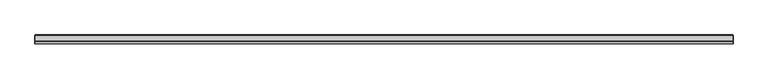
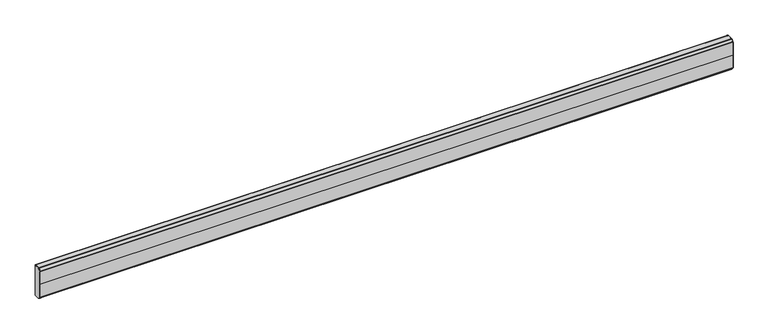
"""IFC4 building model written with IfcOpenShell, lengths in millimetres: railing geometry, Wall Guard-InPro-31SS."""

from ifc_helpers import new_model, si_unit, point, frame, frame_2d, origin, place, context, project, spatial, polyline, circle_curve, trimmed, segment, composite_curve, outline, extrude, source, transform, mapped, element, save
from ifc_brep_helpers import plane_surface, cylinder_surface, revolved_surface, advanced_brep


def railing_770f9589(model_context):
    return source(origin(), model_context, "Body", "SolidModel", [
        extrude(outline(composite_curve([segment(polyline([(6773.169536, 775.6076175), (6765.459771, 783.3173825)]), True, "CONTINUOUS"), segment(trimmed(circle_curve(frame_2d((6767.6509535, 785.508565)), 3.0988), [point((6765.459771, 783.3173825))], [point((6764.5521535, 785.508565))], False, "CARTESIAN"), True, "CONTINUOUS"), segment(polyline([(6764.5521535, 785.508565), (6764.5521535, 845.0617046), (6764.5521535, 903.591435)]), True, "CONTINUOUS"), segment(trimmed(circle_curve(frame_2d((6767.6509535, 903.591435)), 3.0988), [point((6764.5521535, 903.591435))], [point((6765.459771, 905.7826175))], False, "CARTESIAN"), True, "CONTINUOUS"), segment(polyline([(6765.459771, 905.7826175), (6773.169536, 913.4923825)]), True, "CONTINUOUS"), segment(trimmed(circle_curve(frame_2d((6775.3607185, 911.3012)), 3.0988), [point((6773.169536, 913.4923825))], [point((6775.3607185, 914.4))], False, "CARTESIAN"), True, "CONTINUOUS"), segment(polyline([(6775.3607185, 914.4), (6799.5533535, 914.4)]), True, "CONTINUOUS"), segment(trimmed(circle_curve(frame_2d((6799.5533535, 911.3012)), 3.0988), [point((6799.5533535, 914.4))], [point((6802.6521535, 911.3012))], False, "CARTESIAN"), True, "CONTINUOUS"), segment(polyline([(6802.6521535, 911.3012), (6802.6521535, 895.35), (6801.0773535, 895.35), (6801.0773535, 911.3012)]), True, "CONTINUOUS"), segment(trimmed(circle_curve(frame_2d((6799.5533535, 911.3012)), 1.524), [point((6801.0773535, 911.3012))], [point((6799.5533535, 912.8252))], True, "CARTESIAN"), True, "CONTINUOUS"), segment(polyline([(6799.5533535, 912.8252), (6775.3607185, 912.8252)]), True, "CONTINUOUS"), segment(trimmed(circle_curve(frame_2d((6775.3607185, 911.3012)), 1.524), [point((6775.3607185, 912.8252))], [point((6774.2830877, 912.3788307))], True, "CARTESIAN"), True, "CONTINUOUS"), segment(polyline([(6774.2830877, 912.3788307), (6766.5733228, 904.6690657)]), True, "CONTINUOUS"), segment(trimmed(circle_curve(frame_2d((6767.6509535, 903.591435)), 1.524), [point((6766.5733228, 904.6690657))], [point((6766.1269535, 903.591435))], True, "CARTESIAN"), True, "CONTINUOUS"), segment(polyline([(6766.1269535, 903.591435), (6766.1269535, 846.354772), (6766.1269535, 785.508565)]), True, "CONTINUOUS"), segment(trimmed(circle_curve(frame_2d((6767.6509535, 785.508565)), 1.524), [point((6766.1269535, 785.508565))], [point((6766.5733228, 784.4309343))], True, "CARTESIAN"), True, "CONTINUOUS"), segment(polyline([(6766.5733228, 784.4309343), (6774.729457, 776.2748), (6797.7753535, 776.2748)]), True, "CONTINUOUS"), segment(trimmed(circle_curve(frame_2d((6797.7753535, 777.7988)), 1.524), [point((6797.7753535, 776.2748))], [point((6799.2993535, 777.7988))], True, "CARTESIAN"), True, "CONTINUOUS"), segment(polyline([(6799.2993535, 777.7988), (6799.2993535, 787.4), (6800.8741535, 787.4), (6800.8741535, 777.7988)]), True, "CONTINUOUS"), segment(trimmed(circle_curve(frame_2d((6797.7753535, 777.7988)), 3.0988), [point((6800.8741535, 777.7988))], [point((6797.7753535, 774.7))], False, "CARTESIAN"), True, "CONTINUOUS"), segment(polyline([(6797.7753535, 774.7), (6775.3607185, 774.7)]), True, "CONTINUOUS"), segment(trimmed(circle_curve(frame_2d((6775.3607185, 777.7988)), 3.0988), [point((6775.3607185, 774.7))], [point((6773.169536, 775.6076175))], False, "CARTESIAN"), True, "CONTINUOUS")], self_intersect=False)), frame((-6431.9119023, 0.0, 0.0), z_axis=(1.0, 0.0, 0.0), x_axis=(0.0, 1.0, 0.0)), (0.0, 0.0, 1.0), 3022.6),
        advanced_brep(
        [(-3625.2119023, 6799.6484966, 773.1125873), (-3625.2119023, 6802.7124785, 776.1765692), (-3625.2119023, 6802.7124785, 879.9764273), (-3625.2119023, 6802.4609967, 881.1107876), (-3625.2119023, 6800.7033096, 884.8801589), (-3625.2119023, 6800.7033096, 900.5008998), (-3625.2119023, 6799.3201792, 908.3191442), (-3625.2119023, 6797.8361954, 908.0574731), (-3625.2119023, 6799.1964333, 900.3686318), (-3625.2119023, 6799.1964333, 885.1411482), (-3625.2119023, 6799.4479148, 884.0067886), (-3625.2119023, 6801.1553729, 880.3451336), (-3625.2119023, 6801.1553729, 776.1765692), (-3625.2119023, 6799.6484966, 774.6696929), (-3625.2119023, 6777.5978729, 774.6696929), (-3625.2119023, 6777.5978729, 773.1125873), (-3701.4119023, 6799.6484966, 773.1125873), (-3701.4119023, 6777.5978729, 773.1125873), (-3701.4119023, 6777.5978729, 774.6696929), (-3701.4119023, 6799.6484966, 774.6696929), (-3701.4119023, 6801.1553729, 776.1765692), (-3701.4119023, 6801.1553729, 880.3451336), (-3701.4119023, 6799.4479148, 884.006786), (-3701.4119023, 6799.1964333, 885.1411482), (-3701.4119023, 6799.1964333, 900.3686318), (-3701.4119023, 6797.8361954, 908.0574731), (-3701.4119023, 6799.3201792, 908.3191442), (-3701.4119023, 6800.7033096, 900.5008998), (-3701.4119023, 6800.7033096, 884.8801589), (-3701.4119023, 6802.4609967, 881.11079), (-3701.4119023, 6802.7124785, 879.9764273), (-3701.4119023, 6802.7124785, 776.1765692)],
        [
            (0, 1, circle_curve(frame((-3625.2119023, 6799.6484966, 776.1765692), z_axis=(1.0, 0.0, 0.0), x_axis=(0.0, 1.0, 0.0)), 3.0639819)),
            (1, 2),
            (2, 3, circle_curve(frame((-3625.2119023, 6800.0283547, 879.9764273), z_axis=(1.0, 0.0, 0.0), x_axis=(0.0, 1.0, 0.0)), 2.6841238)),
            (3, 4),
            (4, 5),
            (5, 6),
            (6, 7),
            (7, 8),
            (8, 9),
            (9, 10, circle_curve(frame((-3625.2119023, 6801.8805569, 885.1411482), z_axis=(1.0, 0.0, 0.0), x_axis=(0.0, 1.0, 0.0)), 2.6841235)),
            (10, 11),
            (11, 12),
            (12, 13, circle_curve(frame((-3625.2119023, 6799.6484966, 776.1765692), z_axis=(-1.0, 0.0, 0.0), x_axis=(0.0, 1.0, 0.0)), 1.5068763)),
            (13, 14),
            (14, 15),
            (15, 0),
            (16, 17),
            (17, 18),
            (18, 19),
            (19, 20, circle_curve(frame((-3701.4119023, 6799.6484966, 776.1765692), z_axis=(1.0, 0.0, 0.0), x_axis=(0.0, 1.0, 0.0)), 1.5068763)),
            (20, 21),
            (21, 22),
            (22, 23, circle_curve(frame((-3701.4119023, 6801.8805569, 885.1411482), z_axis=(-1.0, 0.0, 0.0), x_axis=(0.0, 1.0, 0.0)), 2.6841235)),
            (23, 24),
            (24, 25),
            (25, 26),
            (26, 27),
            (27, 28),
            (28, 29),
            (29, 30, circle_curve(frame((-3701.4119023, 6800.0283547, 879.9764273), z_axis=(-1.0, 0.0, 0.0), x_axis=(0.0, 1.0, 0.0)), 2.6841238)),
            (30, 31),
            (31, 16, circle_curve(frame((-3701.4119023, 6799.6484966, 776.1765692), z_axis=(-1.0, 0.0, 0.0), x_axis=(0.0, 1.0, 0.0)), 3.0639819)),
            (0, 16),
            (31, 1),
            (30, 2),
            (29, 3),
            (28, 4),
            (27, 5),
            (26, 6),
            (25, 7),
            (24, 8),
            (23, 9),
            (22, 10),
            (21, 11),
            (20, 12),
            (19, 13),
            (18, 14),
            (17, 15),
        ],
        [
            plane_surface(frame((-3625.2119023, 6802.7124785, 776.1765692), z_axis=(1.0, 0.0, 0.0), x_axis=(0.0, 0.0, 1.0))),
            plane_surface(frame((-3701.4119023, 6802.7124785, 776.1765692), z_axis=(-1.0, 0.0, 0.0), x_axis=(0.0, 0.0, -1.0))),
            cylinder_surface(frame((-3701.4119023, 6799.6484966, 776.1765692), z_axis=(1.0, 0.0, 0.0), x_axis=(0.0, 1.0, 0.0)), 3.0639819),
            plane_surface(frame((-3625.2119023, 6802.7124785, 776.1765692), z_axis=(0.0, 1.0, 0.0), x_axis=(-1.0, 0.0, 0.0))),
            cylinder_surface(frame((-3701.4119023, 6800.0283547, 879.9764273), z_axis=(1.0, 0.0, 0.0), x_axis=(0.0, 1.0, 0.0)), 2.6841238),
            plane_surface(frame((-3625.2119023, 6802.4609967, 881.11079), z_axis=(0.0, 0.9063076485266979, 0.4226185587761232), x_axis=(-1.0, 0.0, 0.0))),
            plane_surface(frame((-3625.2119023, 6800.7033096, 884.8801589), z_axis=(0.0, 1.0, 0.0), x_axis=(-1.0, 0.0, 0.0))),
            plane_surface(frame((-3625.2119023, 6800.7033096, 900.5008998), z_axis=(0.0, 0.9847093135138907, 0.1742055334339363), x_axis=(-1.0, 0.0, 0.0))),
            plane_surface(frame((-3625.2119023, 6799.3201792, 908.3191442), z_axis=(0.0, -0.17365120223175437, 0.9848072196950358), x_axis=(-1.0, 0.0, 0.0))),
            plane_surface(frame((-3625.2119023, 6797.8361954, 908.0574731), z_axis=(0.0, -0.9847093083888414, -0.17420556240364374), x_axis=(-1.0, 0.0, 0.0))),
            plane_surface(frame((-3625.2119023, 6799.1964333, 900.3686318), z_axis=(0.0, -1.0, 0.0), x_axis=(-1.0, 0.0, 0.0))),
            cylinder_surface(frame((-3701.4119023, 6801.8805569, 885.1411482), z_axis=(1.0, 0.0, 0.0), x_axis=(0.0, 1.0, 0.0)), 2.6841235),
            plane_surface(frame((-3625.2119023, 6799.4479148, 884.006786), z_axis=(0.0, -0.9063076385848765, -0.4226185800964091), x_axis=(-1.0, 0.0, 0.0))),
            plane_surface(frame((-3625.2119023, 6801.1553729, 880.3451336), z_axis=(0.0, -1.0, 0.0), x_axis=(-1.0, 0.0, 0.0))),
            revolved_surface(polyline([(-3701.4119023, 6801.1553729, 776.1765692), (-3625.2119023, 6801.1553729, 776.1765692)]), (-3701.4119023, 6799.6484966, 776.1765692), (-1.0, 0.0, 0.0)),
            plane_surface(frame((-3625.2119023, 6799.6484966, 774.6696929), z_axis=(0.0, 0.0, 1.0), x_axis=(-1.0, 0.0, 0.0))),
            plane_surface(frame((-3625.2119023, 6777.5978729, 774.6696929), z_axis=(0.0, -1.0, 0.0), x_axis=(-1.0, 0.0, 0.0))),
            plane_surface(frame((-3625.2119023, 6777.5978729, 773.1125873), z_axis=(0.0, 0.0, -1.0), x_axis=(-1.0, 0.0, 0.0))),
        ],
        [
            (0, [[1, 2, 3, 4, 5, 6, 7, 8, 9, 10, 11, 12, 13, 14, 15, 16]]),
            (1, [[17, 18, 19, 20, 21, 22, 23, 24, 25, 26, 27, 28, 29, 30, 31, 32]]),
            (2, [[-1, 33, -32, 34]]),
            (3, [[-2, -34, -31, 35]]),
            (4, [[-3, -35, -30, 36]]),
            (5, [[-4, -36, -29, 37]]),
            (6, [[-5, -37, -28, 38]]),
            (7, [[-6, -38, -27, 39]]),
            (8, [[-7, -39, -26, 40]]),
            (9, [[-8, -40, -25, 41]]),
            (10, [[-9, -41, -24, 42]]),
            (11, [[-10, -42, -23, 43]]),
            (12, [[-11, -43, -22, 44]]),
            (13, [[-12, -44, -21, 45]]),
            (14, [[-13, -45, -20, 46]]),
            (15, [[-14, -46, -19, 47]]),
            (16, [[-15, -47, -18, 48]]),
            (17, [[-16, -48, -17, -33]]),
        ],
    ),
        advanced_brep(
        [(-4438.0119023, 6799.6484966, 773.1125873), (-4438.0119023, 6802.7124785, 776.1765692), (-4438.0119023, 6802.7124785, 879.9764273), (-4438.0119023, 6802.4609967, 881.1107876), (-4438.0119023, 6800.7033096, 884.8801589), (-4438.0119023, 6800.7033096, 900.5008998), (-4438.0119023, 6799.3201792, 908.3191442), (-4438.0119023, 6797.8361954, 908.0574731), (-4438.0119023, 6799.1964333, 900.3686318), (-4438.0119023, 6799.1964333, 885.1411482), (-4438.0119023, 6799.4479148, 884.0067886), (-4438.0119023, 6801.1553729, 880.3451336), (-4438.0119023, 6801.1553729, 776.1765692), (-4438.0119023, 6799.6484966, 774.6696929), (-4438.0119023, 6777.5978729, 774.6696929), (-4438.0119023, 6777.5978729, 773.1125873), (-4514.2119023, 6799.6484966, 773.1125873), (-4514.2119023, 6777.5978729, 773.1125873), (-4514.2119023, 6777.5978729, 774.6696929), (-4514.2119023, 6799.6484966, 774.6696929), (-4514.2119023, 6801.1553729, 776.1765692), (-4514.2119023, 6801.1553729, 880.3451336), (-4514.2119023, 6799.4479148, 884.006786), (-4514.2119023, 6799.1964333, 885.1411482), (-4514.2119023, 6799.1964333, 900.3686318), (-4514.2119023, 6797.8361954, 908.0574731), (-4514.2119023, 6799.3201792, 908.3191442), (-4514.2119023, 6800.7033096, 900.5008998), (-4514.2119023, 6800.7033096, 884.8801589), (-4514.2119023, 6802.4609967, 881.11079), (-4514.2119023, 6802.7124785, 879.9764273), (-4514.2119023, 6802.7124785, 776.1765692)],
        [
            (0, 1, circle_curve(frame((-4438.0119023, 6799.6484966, 776.1765692), z_axis=(1.0, 0.0, 0.0), x_axis=(0.0, 1.0, 0.0)), 3.0639819)),
            (1, 2),
            (2, 3, circle_curve(frame((-4438.0119023, 6800.0283547, 879.9764273), z_axis=(1.0, 0.0, 0.0), x_axis=(0.0, 1.0, 0.0)), 2.6841238)),
            (3, 4),
            (4, 5),
            (5, 6),
            (6, 7),
            (7, 8),
            (8, 9),
            (9, 10, circle_curve(frame((-4438.0119023, 6801.8805569, 885.1411482), z_axis=(1.0, 0.0, 0.0), x_axis=(0.0, 1.0, 0.0)), 2.6841235)),
            (10, 11),
            (11, 12),
            (12, 13, circle_curve(frame((-4438.0119023, 6799.6484966, 776.1765692), z_axis=(-1.0, 0.0, 0.0), x_axis=(0.0, 1.0, 0.0)), 1.5068763)),
            (13, 14),
            (14, 15),
            (15, 0),
            (16, 17),
            (17, 18),
            (18, 19),
            (19, 20, circle_curve(frame((-4514.2119023, 6799.6484966, 776.1765692), z_axis=(1.0, 0.0, 0.0), x_axis=(0.0, 1.0, 0.0)), 1.5068763)),
            (20, 21),
            (21, 22),
            (22, 23, circle_curve(frame((-4514.2119023, 6801.8805569, 885.1411482), z_axis=(-1.0, 0.0, 0.0), x_axis=(0.0, 1.0, 0.0)), 2.6841235)),
            (23, 24),
            (24, 25),
            (25, 26),
            (26, 27),
            (27, 28),
            (28, 29),
            (29, 30, circle_curve(frame((-4514.2119023, 6800.0283547, 879.9764273), z_axis=(-1.0, 0.0, 0.0), x_axis=(0.0, 1.0, 0.0)), 2.6841238)),
            (30, 31),
            (31, 16, circle_curve(frame((-4514.2119023, 6799.6484966, 776.1765692), z_axis=(-1.0, 0.0, 0.0), x_axis=(0.0, 1.0, 0.0)), 3.0639819)),
            (0, 16),
            (31, 1),
            (30, 2),
            (29, 3),
            (28, 4),
            (27, 5),
            (26, 6),
            (25, 7),
            (24, 8),
            (23, 9),
            (22, 10),
            (21, 11),
            (20, 12),
            (19, 13),
            (18, 14),
            (17, 15),
        ],
        [
            plane_surface(frame((-4438.0119023, 6802.7124785, 776.1765692), z_axis=(1.0, 0.0, 0.0), x_axis=(0.0, 0.0, 1.0))),
            plane_surface(frame((-4514.2119023, 6802.7124785, 776.1765692), z_axis=(-1.0, 0.0, 0.0), x_axis=(0.0, 0.0, -1.0))),
            cylinder_surface(frame((-4514.2119023, 6799.6484966, 776.1765692), z_axis=(1.0, 0.0, 0.0), x_axis=(0.0, 1.0, 0.0)), 3.0639819),
            plane_surface(frame((-4438.0119023, 6802.7124785, 776.1765692), z_axis=(0.0, 1.0, 0.0), x_axis=(-1.0, 0.0, 0.0))),
            cylinder_surface(frame((-4514.2119023, 6800.0283547, 879.9764273), z_axis=(1.0, 0.0, 0.0), x_axis=(0.0, 1.0, 0.0)), 2.6841238),
            plane_surface(frame((-4438.0119023, 6802.4609967, 881.11079), z_axis=(0.0, 0.9063076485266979, 0.4226185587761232), x_axis=(-1.0, 0.0, 0.0))),
            plane_surface(frame((-4438.0119023, 6800.7033096, 884.8801589), z_axis=(0.0, 1.0, 0.0), x_axis=(-1.0, 0.0, 0.0))),
            plane_surface(frame((-4438.0119023, 6800.7033096, 900.5008998), z_axis=(0.0, 0.9847093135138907, 0.1742055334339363), x_axis=(-1.0, 0.0, 0.0))),
            plane_surface(frame((-4438.0119023, 6799.3201792, 908.3191442), z_axis=(0.0, -0.17365120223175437, 0.9848072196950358), x_axis=(-1.0, 0.0, 0.0))),
            plane_surface(frame((-4438.0119023, 6797.8361954, 908.0574731), z_axis=(0.0, -0.9847093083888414, -0.17420556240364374), x_axis=(-1.0, 0.0, 0.0))),
            plane_surface(frame((-4438.0119023, 6799.1964333, 900.3686318), z_axis=(0.0, -1.0, 0.0), x_axis=(-1.0, 0.0, 0.0))),
            cylinder_surface(frame((-4514.2119023, 6801.8805569, 885.1411482), z_axis=(1.0, 0.0, 0.0), x_axis=(0.0, 1.0, 0.0)), 2.6841235),
            plane_surface(frame((-4438.0119023, 6799.4479148, 884.006786), z_axis=(0.0, -0.9063076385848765, -0.4226185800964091), x_axis=(-1.0, 0.0, 0.0))),
            plane_surface(frame((-4438.0119023, 6801.1553729, 880.3451336), z_axis=(0.0, -1.0, 0.0), x_axis=(-1.0, 0.0, 0.0))),
            revolved_surface(polyline([(-4514.2119023, 6801.1553729, 776.1765692), (-4438.0119023, 6801.1553729, 776.1765692)]), (-4514.2119023, 6799.6484966, 776.1765692), (-1.0, 0.0, 0.0)),
            plane_surface(frame((-4438.0119023, 6799.6484966, 774.6696929), z_axis=(0.0, 0.0, 1.0), x_axis=(-1.0, 0.0, 0.0))),
            plane_surface(frame((-4438.0119023, 6777.5978729, 774.6696929), z_axis=(0.0, -1.0, 0.0), x_axis=(-1.0, 0.0, 0.0))),
            plane_surface(frame((-4438.0119023, 6777.5978729, 773.1125873), z_axis=(0.0, 0.0, -1.0), x_axis=(-1.0, 0.0, 0.0))),
        ],
        [
            (0, [[1, 2, 3, 4, 5, 6, 7, 8, 9, 10, 11, 12, 13, 14, 15, 16]]),
            (1, [[17, 18, 19, 20, 21, 22, 23, 24, 25, 26, 27, 28, 29, 30, 31, 32]]),
            (2, [[-1, 33, -32, 34]]),
            (3, [[-2, -34, -31, 35]]),
            (4, [[-3, -35, -30, 36]]),
            (5, [[-4, -36, -29, 37]]),
            (6, [[-5, -37, -28, 38]]),
            (7, [[-6, -38, -27, 39]]),
            (8, [[-7, -39, -26, 40]]),
            (9, [[-8, -40, -25, 41]]),
            (10, [[-9, -41, -24, 42]]),
            (11, [[-10, -42, -23, 43]]),
            (12, [[-11, -43, -22, 44]]),
            (13, [[-12, -44, -21, 45]]),
            (14, [[-13, -45, -20, 46]]),
            (15, [[-14, -46, -19, 47]]),
            (16, [[-15, -47, -18, 48]]),
            (17, [[-16, -48, -17, -33]]),
        ],
    ),
        advanced_brep(
        [(-5250.8119023, 6799.6484966, 773.1125873), (-5250.8119023, 6802.7124785, 776.1765692), (-5250.8119023, 6802.7124785, 879.9764273), (-5250.8119023, 6802.4609967, 881.1107876), (-5250.8119023, 6800.7033096, 884.8801589), (-5250.8119023, 6800.7033096, 900.5008998), (-5250.8119023, 6799.3201792, 908.3191442), (-5250.8119023, 6797.8361954, 908.0574731), (-5250.8119023, 6799.1964333, 900.3686318), (-5250.8119023, 6799.1964333, 885.1411482), (-5250.8119023, 6799.4479148, 884.0067886), (-5250.8119023, 6801.1553729, 880.3451336), (-5250.8119023, 6801.1553729, 776.1765692), (-5250.8119023, 6799.6484966, 774.6696929), (-5250.8119023, 6777.5978729, 774.6696929), (-5250.8119023, 6777.5978729, 773.1125873), (-5327.0119023, 6799.6484966, 773.1125873), (-5327.0119023, 6777.5978729, 773.1125873), (-5327.0119023, 6777.5978729, 774.6696929), (-5327.0119023, 6799.6484966, 774.6696929), (-5327.0119023, 6801.1553729, 776.1765692), (-5327.0119023, 6801.1553729, 880.3451336), (-5327.0119023, 6799.4479148, 884.006786), (-5327.0119023, 6799.1964333, 885.1411482), (-5327.0119023, 6799.1964333, 900.3686318), (-5327.0119023, 6797.8361954, 908.0574731), (-5327.0119023, 6799.3201792, 908.3191442), (-5327.0119023, 6800.7033096, 900.5008998), (-5327.0119023, 6800.7033096, 884.8801589), (-5327.0119023, 6802.4609967, 881.11079), (-5327.0119023, 6802.7124785, 879.9764273), (-5327.0119023, 6802.7124785, 776.1765692)],
        [
            (0, 1, circle_curve(frame((-5250.8119023, 6799.6484966, 776.1765692), z_axis=(1.0, 0.0, 0.0), x_axis=(0.0, 1.0, 0.0)), 3.0639819)),
            (1, 2),
            (2, 3, circle_curve(frame((-5250.8119023, 6800.0283547, 879.9764273), z_axis=(1.0, 0.0, 0.0), x_axis=(0.0, 1.0, 0.0)), 2.6841238)),
            (3, 4),
            (4, 5),
            (5, 6),
            (6, 7),
            (7, 8),
            (8, 9),
            (9, 10, circle_curve(frame((-5250.8119023, 6801.8805569, 885.1411482), z_axis=(1.0, 0.0, 0.0), x_axis=(0.0, 1.0, 0.0)), 2.6841235)),
            (10, 11),
            (11, 12),
            (12, 13, circle_curve(frame((-5250.8119023, 6799.6484966, 776.1765692), z_axis=(-1.0, 0.0, 0.0), x_axis=(0.0, 1.0, 0.0)), 1.5068763)),
            (13, 14),
            (14, 15),
            (15, 0),
            (16, 17),
            (17, 18),
            (18, 19),
            (19, 20, circle_curve(frame((-5327.0119023, 6799.6484966, 776.1765692), z_axis=(1.0, 0.0, 0.0), x_axis=(0.0, 1.0, 0.0)), 1.5068763)),
            (20, 21),
            (21, 22),
            (22, 23, circle_curve(frame((-5327.0119023, 6801.8805569, 885.1411482), z_axis=(-1.0, 0.0, 0.0), x_axis=(0.0, 1.0, 0.0)), 2.6841235)),
            (23, 24),
            (24, 25),
            (25, 26),
            (26, 27),
            (27, 28),
            (28, 29),
            (29, 30, circle_curve(frame((-5327.0119023, 6800.0283547, 879.9764273), z_axis=(-1.0, 0.0, 0.0), x_axis=(0.0, 1.0, 0.0)), 2.6841238)),
            (30, 31),
            (31, 16, circle_curve(frame((-5327.0119023, 6799.6484966, 776.1765692), z_axis=(-1.0, 0.0, 0.0), x_axis=(0.0, 1.0, 0.0)), 3.0639819)),
            (0, 16),
            (31, 1),
            (30, 2),
            (29, 3),
            (28, 4),
            (27, 5),
            (26, 6),
            (25, 7),
            (24, 8),
            (23, 9),
            (22, 10),
            (21, 11),
            (20, 12),
            (19, 13),
            (18, 14),
            (17, 15),
        ],
        [
            plane_surface(frame((-5250.8119023, 6802.7124785, 776.1765692), z_axis=(1.0, 0.0, 0.0), x_axis=(0.0, 0.0, 1.0))),
            plane_surface(frame((-5327.0119023, 6802.7124785, 776.1765692), z_axis=(-1.0, 0.0, 0.0), x_axis=(0.0, 0.0, -1.0))),
            cylinder_surface(frame((-5327.0119023, 6799.6484966, 776.1765692), z_axis=(1.0, 0.0, 0.0), x_axis=(0.0, 1.0, 0.0)), 3.0639819),
            plane_surface(frame((-5250.8119023, 6802.7124785, 776.1765692), z_axis=(0.0, 1.0, 0.0), x_axis=(-1.0, 0.0, 0.0))),
            cylinder_surface(frame((-5327.0119023, 6800.0283547, 879.9764273), z_axis=(1.0, 0.0, 0.0), x_axis=(0.0, 1.0, 0.0)), 2.6841238),
            plane_surface(frame((-5250.8119023, 6802.4609967, 881.11079), z_axis=(0.0, 0.9063076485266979, 0.4226185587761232), x_axis=(-1.0, 0.0, 0.0))),
            plane_surface(frame((-5250.8119023, 6800.7033096, 884.8801589), z_axis=(0.0, 1.0, 0.0), x_axis=(-1.0, 0.0, 0.0))),
            plane_surface(frame((-5250.8119023, 6800.7033096, 900.5008998), z_axis=(0.0, 0.9847093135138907, 0.1742055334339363), x_axis=(-1.0, 0.0, 0.0))),
            plane_surface(frame((-5250.8119023, 6799.3201792, 908.3191442), z_axis=(0.0, -0.17365120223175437, 0.9848072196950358), x_axis=(-1.0, 0.0, 0.0))),
            plane_surface(frame((-5250.8119023, 6797.8361954, 908.0574731), z_axis=(0.0, -0.9847093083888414, -0.17420556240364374), x_axis=(-1.0, 0.0, 0.0))),
            plane_surface(frame((-5250.8119023, 6799.1964333, 900.3686318), z_axis=(0.0, -1.0, 0.0), x_axis=(-1.0, 0.0, 0.0))),
            cylinder_surface(frame((-5327.0119023, 6801.8805569, 885.1411482), z_axis=(1.0, 0.0, 0.0), x_axis=(0.0, 1.0, 0.0)), 2.6841235),
            plane_surface(frame((-5250.8119023, 6799.4479148, 884.006786), z_axis=(0.0, -0.9063076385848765, -0.4226185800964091), x_axis=(-1.0, 0.0, 0.0))),
            plane_surface(frame((-5250.8119023, 6801.1553729, 880.3451336), z_axis=(0.0, -1.0, 0.0), x_axis=(-1.0, 0.0, 0.0))),
            revolved_surface(polyline([(-5327.0119023, 6801.1553729, 776.1765692), (-5250.8119023, 6801.1553729, 776.1765692)]), (-5327.0119023, 6799.6484966, 776.1765692), (-1.0, 0.0, 0.0)),
            plane_surface(frame((-5250.8119023, 6799.6484966, 774.6696929), z_axis=(0.0, 0.0, 1.0), x_axis=(-1.0, 0.0, 0.0))),
            plane_surface(frame((-5250.8119023, 6777.5978729, 774.6696929), z_axis=(0.0, -1.0, 0.0), x_axis=(-1.0, 0.0, 0.0))),
            plane_surface(frame((-5250.8119023, 6777.5978729, 773.1125873), z_axis=(0.0, 0.0, -1.0), x_axis=(-1.0, 0.0, 0.0))),
        ],
        [
            (0, [[1, 2, 3, 4, 5, 6, 7, 8, 9, 10, 11, 12, 13, 14, 15, 16]]),
            (1, [[17, 18, 19, 20, 21, 22, 23, 24, 25, 26, 27, 28, 29, 30, 31, 32]]),
            (2, [[-1, 33, -32, 34]]),
            (3, [[-2, -34, -31, 35]]),
            (4, [[-3, -35, -30, 36]]),
            (5, [[-4, -36, -29, 37]]),
            (6, [[-5, -37, -28, 38]]),
            (7, [[-6, -38, -27, 39]]),
            (8, [[-7, -39, -26, 40]]),
            (9, [[-8, -40, -25, 41]]),
            (10, [[-9, -41, -24, 42]]),
            (11, [[-10, -42, -23, 43]]),
            (12, [[-11, -43, -22, 44]]),
            (13, [[-12, -44, -21, 45]]),
            (14, [[-13, -45, -20, 46]]),
            (15, [[-14, -46, -19, 47]]),
            (16, [[-15, -47, -18, 48]]),
            (17, [[-16, -48, -17, -33]]),
        ],
    ),
        advanced_brep(
        [(-6063.6119023, 6799.6484966, 773.1125873), (-6063.6119023, 6802.7124785, 776.1765692), (-6063.6119023, 6802.7124785, 879.9764273), (-6063.6119023, 6802.4609967, 881.1107876), (-6063.6119023, 6800.7033096, 884.8801589), (-6063.6119023, 6800.7033096, 900.5008998), (-6063.6119023, 6799.3201792, 908.3191442), (-6063.6119023, 6797.8361954, 908.0574731), (-6063.6119023, 6799.1964333, 900.3686318), (-6063.6119023, 6799.1964333, 885.1411482), (-6063.6119023, 6799.4479148, 884.0067886), (-6063.6119023, 6801.1553729, 880.3451336), (-6063.6119023, 6801.1553729, 776.1765692), (-6063.6119023, 6799.6484966, 774.6696929), (-6063.6119023, 6777.5978729, 774.6696929), (-6063.6119023, 6777.5978729, 773.1125873), (-6139.8119023, 6799.6484966, 773.1125873), (-6139.8119023, 6777.5978729, 773.1125873), (-6139.8119023, 6777.5978729, 774.6696929), (-6139.8119023, 6799.6484966, 774.6696929), (-6139.8119023, 6801.1553729, 776.1765692), (-6139.8119023, 6801.1553729, 880.3451336), (-6139.8119023, 6799.4479148, 884.006786), (-6139.8119023, 6799.1964333, 885.1411482), (-6139.8119023, 6799.1964333, 900.3686318), (-6139.8119023, 6797.8361954, 908.0574731), (-6139.8119023, 6799.3201792, 908.3191442), (-6139.8119023, 6800.7033096, 900.5008998), (-6139.8119023, 6800.7033096, 884.8801589), (-6139.8119023, 6802.4609967, 881.11079), (-6139.8119023, 6802.7124785, 879.9764273), (-6139.8119023, 6802.7124785, 776.1765692)],
        [
            (0, 1, circle_curve(frame((-6063.6119023, 6799.6484966, 776.1765692), z_axis=(1.0, 0.0, 0.0), x_axis=(0.0, 1.0, 0.0)), 3.0639819)),
            (1, 2),
            (2, 3, circle_curve(frame((-6063.6119023, 6800.0283547, 879.9764273), z_axis=(1.0, 0.0, 0.0), x_axis=(0.0, 1.0, 0.0)), 2.6841238)),
            (3, 4),
            (4, 5),
            (5, 6),
            (6, 7),
            (7, 8),
            (8, 9),
            (9, 10, circle_curve(frame((-6063.6119023, 6801.8805569, 885.1411482), z_axis=(1.0, 0.0, 0.0), x_axis=(0.0, 1.0, 0.0)), 2.6841235)),
            (10, 11),
            (11, 12),
            (12, 13, circle_curve(frame((-6063.6119023, 6799.6484966, 776.1765692), z_axis=(-1.0, 0.0, 0.0), x_axis=(0.0, 1.0, 0.0)), 1.5068763)),
            (13, 14),
            (14, 15),
            (15, 0),
            (16, 17),
            (17, 18),
            (18, 19),
            (19, 20, circle_curve(frame((-6139.8119023, 6799.6484966, 776.1765692), z_axis=(1.0, 0.0, 0.0), x_axis=(0.0, 1.0, 0.0)), 1.5068763)),
            (20, 21),
            (21, 22),
            (22, 23, circle_curve(frame((-6139.8119023, 6801.8805569, 885.1411482), z_axis=(-1.0, 0.0, 0.0), x_axis=(0.0, 1.0, 0.0)), 2.6841235)),
            (23, 24),
            (24, 25),
            (25, 26),
            (26, 27),
            (27, 28),
            (28, 29),
            (29, 30, circle_curve(frame((-6139.8119023, 6800.0283547, 879.9764273), z_axis=(-1.0, 0.0, 0.0), x_axis=(0.0, 1.0, 0.0)), 2.6841238)),
            (30, 31),
            (31, 16, circle_curve(frame((-6139.8119023, 6799.6484966, 776.1765692), z_axis=(-1.0, 0.0, 0.0), x_axis=(0.0, 1.0, 0.0)), 3.0639819)),
            (0, 16),
            (31, 1),
            (30, 2),
            (29, 3),
            (28, 4),
            (27, 5),
            (26, 6),
            (25, 7),
            (24, 8),
            (23, 9),
            (22, 10),
            (21, 11),
            (20, 12),
            (19, 13),
            (18, 14),
            (17, 15),
        ],
        [
            plane_surface(frame((-6063.6119023, 6802.7124785, 776.1765692), z_axis=(1.0, 0.0, 0.0), x_axis=(0.0, 0.0, 1.0))),
            plane_surface(frame((-6139.8119023, 6802.7124785, 776.1765692), z_axis=(-1.0, 0.0, 0.0), x_axis=(0.0, 0.0, -1.0))),
            cylinder_surface(frame((-6139.8119023, 6799.6484966, 776.1765692), z_axis=(1.0, 0.0, 0.0), x_axis=(0.0, 1.0, 0.0)), 3.0639819),
            plane_surface(frame((-6063.6119023, 6802.7124785, 776.1765692), z_axis=(0.0, 1.0, 0.0), x_axis=(-1.0, 0.0, 0.0))),
            cylinder_surface(frame((-6139.8119023, 6800.0283547, 879.9764273), z_axis=(1.0, 0.0, 0.0), x_axis=(0.0, 1.0, 0.0)), 2.6841238),
            plane_surface(frame((-6063.6119023, 6802.4609967, 881.11079), z_axis=(0.0, 0.9063076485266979, 0.4226185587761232), x_axis=(-1.0, 0.0, 0.0))),
            plane_surface(frame((-6063.6119023, 6800.7033096, 884.8801589), z_axis=(0.0, 1.0, 0.0), x_axis=(-1.0, 0.0, 0.0))),
            plane_surface(frame((-6063.6119023, 6800.7033096, 900.5008998), z_axis=(0.0, 0.9847093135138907, 0.1742055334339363), x_axis=(-1.0, 0.0, 0.0))),
            plane_surface(frame((-6063.6119023, 6799.3201792, 908.3191442), z_axis=(0.0, -0.17365120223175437, 0.9848072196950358), x_axis=(-1.0, 0.0, 0.0))),
            plane_surface(frame((-6063.6119023, 6797.8361954, 908.0574731), z_axis=(0.0, -0.9847093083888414, -0.17420556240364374), x_axis=(-1.0, 0.0, 0.0))),
            plane_surface(frame((-6063.6119023, 6799.1964333, 900.3686318), z_axis=(0.0, -1.0, 0.0), x_axis=(-1.0, 0.0, 0.0))),
            cylinder_surface(frame((-6139.8119023, 6801.8805569, 885.1411482), z_axis=(1.0, 0.0, 0.0), x_axis=(0.0, 1.0, 0.0)), 2.6841235),
            plane_surface(frame((-6063.6119023, 6799.4479148, 884.006786), z_axis=(0.0, -0.9063076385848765, -0.4226185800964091), x_axis=(-1.0, 0.0, 0.0))),
            plane_surface(frame((-6063.6119023, 6801.1553729, 880.3451336), z_axis=(0.0, -1.0, 0.0), x_axis=(-1.0, 0.0, 0.0))),
            revolved_surface(polyline([(-6139.8119023, 6801.1553729, 776.1765692), (-6063.6119023, 6801.1553729, 776.1765692)]), (-6139.8119023, 6799.6484966, 776.1765692), (-1.0, 0.0, 0.0)),
            plane_surface(frame((-6063.6119023, 6799.6484966, 774.6696929), z_axis=(0.0, 0.0, 1.0), x_axis=(-1.0, 0.0, 0.0))),
            plane_surface(frame((-6063.6119023, 6777.5978729, 774.6696929), z_axis=(0.0, -1.0, 0.0), x_axis=(-1.0, 0.0, 0.0))),
            plane_surface(frame((-6063.6119023, 6777.5978729, 773.1125873), z_axis=(0.0, 0.0, -1.0), x_axis=(-1.0, 0.0, 0.0))),
        ],
        [
            (0, [[1, 2, 3, 4, 5, 6, 7, 8, 9, 10, 11, 12, 13, 14, 15, 16]]),
            (1, [[17, 18, 19, 20, 21, 22, 23, 24, 25, 26, 27, 28, 29, 30, 31, 32]]),
            (2, [[-1, 33, -32, 34]]),
            (3, [[-2, -34, -31, 35]]),
            (4, [[-3, -35, -30, 36]]),
            (5, [[-4, -36, -29, 37]]),
            (6, [[-5, -37, -28, 38]]),
            (7, [[-6, -38, -27, 39]]),
            (8, [[-7, -39, -26, 40]]),
            (9, [[-8, -40, -25, 41]]),
            (10, [[-9, -41, -24, 42]]),
            (11, [[-10, -42, -23, 43]]),
            (12, [[-11, -43, -22, 44]]),
            (13, [[-12, -44, -21, 45]]),
            (14, [[-13, -45, -20, 46]]),
            (15, [[-14, -46, -19, 47]]),
            (16, [[-15, -47, -18, 48]]),
            (17, [[-16, -48, -17, -33]]),
        ],
    ),
        extrude(outline(composite_curve([segment(trimmed(circle_curve(frame_2d((6777.1169846, 781.2803725)), 6.35), [point((6777.1169846, 774.9303725))], [point((6772.6268565, 776.7902444))], False, "CARTESIAN"), True, "CONTINUOUS"), segment(polyline([(6772.6268565, 776.7902444), (6766.6946004, 782.7225005)]), True, "CONTINUOUS"), segment(trimmed(circle_curve(frame_2d((6771.1847285, 787.2126286)), 6.35), [point((6766.6946004, 782.7225005))], [point((6764.8347285, 787.2126286))], False, "CARTESIAN"), True, "CONTINUOUS"), segment(polyline([(6764.8347285, 787.2126286), (6764.8347285, 901.3321163)]), True, "CONTINUOUS"), segment(trimmed(circle_curve(frame_2d((6771.1847285, 901.3321163)), 6.35), [point((6764.8347285, 901.3321163))], [point((6766.6946004, 905.8222444))], False, "CARTESIAN"), True, "CONTINUOUS"), segment(polyline([(6766.6946004, 905.8222444), (6772.6268565, 911.7545005)]), True, "CONTINUOUS"), segment(trimmed(circle_curve(frame_2d((6777.1169846, 907.2643725)), 6.35), [point((6772.6268565, 911.7545005))], [point((6777.1169846, 913.6143725))], False, "CARTESIAN"), True, "CONTINUOUS"), segment(polyline([(6777.1169846, 913.6143725), (6798.7437285, 913.6143725)]), True, "CONTINUOUS"), segment(trimmed(circle_curve(frame_2d((6798.7437285, 910.4393725)), 3.175), [point((6798.7437285, 913.6143725))], [point((6801.9187285, 910.4393725))], False, "CARTESIAN"), True, "CONTINUOUS"), segment(polyline([(6801.9187285, 910.4393725), (6801.9187285, 778.1053725)]), True, "CONTINUOUS"), segment(trimmed(circle_curve(frame_2d((6798.7437285, 778.1053725)), 3.175), [point((6801.9187285, 778.1053725))], [point((6798.7437285, 774.9303725))], False, "CARTESIAN"), True, "CONTINUOUS"), segment(polyline([(6798.7437285, 774.9303725), (6777.1169846, 774.9303725)]), True, "CONTINUOUS")], self_intersect=False)), frame((-3409.3119023, 0.0, 0.0), z_axis=(1.0, 0.0, 0.0), x_axis=(0.0, 1.0, 0.0)), (0.0, 0.0, 1.0), 1.524),
        extrude(outline(composite_curve([segment(trimmed(circle_curve(frame_2d((6777.1169846, 781.2803725)), 6.35), [point((6777.1169846, 774.9303725))], [point((6772.6268565, 776.7902444))], False, "CARTESIAN"), True, "CONTINUOUS"), segment(polyline([(6772.6268565, 776.7902444), (6766.6946004, 782.7225005)]), True, "CONTINUOUS"), segment(trimmed(circle_curve(frame_2d((6771.1847285, 787.2126286)), 6.35), [point((6766.6946004, 782.7225005))], [point((6764.8347285, 787.2126286))], False, "CARTESIAN"), True, "CONTINUOUS"), segment(polyline([(6764.8347285, 787.2126286), (6764.8347285, 901.3321163)]), True, "CONTINUOUS"), segment(trimmed(circle_curve(frame_2d((6771.1847285, 901.3321163)), 6.35), [point((6764.8347285, 901.3321163))], [point((6766.6946004, 905.8222444))], False, "CARTESIAN"), True, "CONTINUOUS"), segment(polyline([(6766.6946004, 905.8222444), (6772.6268565, 911.7545005)]), True, "CONTINUOUS"), segment(trimmed(circle_curve(frame_2d((6777.1169846, 907.2643725)), 6.35), [point((6772.6268565, 911.7545005))], [point((6777.1169846, 913.6143725))], False, "CARTESIAN"), True, "CONTINUOUS"), segment(polyline([(6777.1169846, 913.6143725), (6798.7437285, 913.6143725)]), True, "CONTINUOUS"), segment(trimmed(circle_curve(frame_2d((6798.7437285, 910.4393725)), 3.175), [point((6798.7437285, 913.6143725))], [point((6801.9187285, 910.4393725))], False, "CARTESIAN"), True, "CONTINUOUS"), segment(polyline([(6801.9187285, 910.4393725), (6801.9187285, 778.1053725)]), True, "CONTINUOUS"), segment(trimmed(circle_curve(frame_2d((6798.7437285, 778.1053725)), 3.175), [point((6801.9187285, 778.1053725))], [point((6798.7437285, 774.9303725))], False, "CARTESIAN"), True, "CONTINUOUS"), segment(polyline([(6798.7437285, 774.9303725), (6777.1169846, 774.9303725)]), True, "CONTINUOUS")], self_intersect=False)), frame((-6433.4359023, 0.0, 0.0), z_axis=(1.0, 0.0, 0.0), x_axis=(0.0, 1.0, 0.0)), (0.0, 0.0, 1.0), 1.524),
    ])


if __name__ == "__main__":
    model = new_model("IFC4")
    model_context = context("Model", 3, world=origin())
    ifc_project = project(units=[si_unit("LENGTHUNIT", "METRE", prefix="MILLI")], contexts=[model_context])
    site = spatial("IfcSite", under=ifc_project)
    building = spatial("IfcBuilding", under=site)
    placement = place(None, origin())
    railing_shape = railing_770f9589(model_context)
    element("IfcRailing", 1, ObjectType="Wall Guard-InPro-31SS", at=placement, inside=building, context=model_context, shape_type="MappedRepresentation", body=[
        mapped(railing_shape, transform((0.0, 0.0, 0.0), x_axis=(1.0, 0.0, 0.0), y_axis=(0.0, 1.0, 0.0), z_axis=(0.0, 0.0, 1.0))),
    ])
    save(model, "model.ifc")
